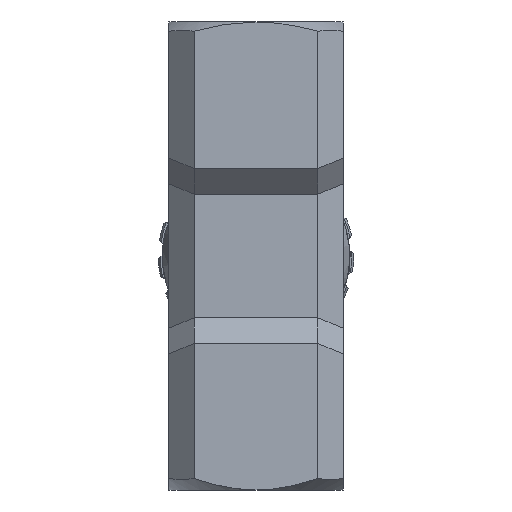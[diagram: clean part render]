
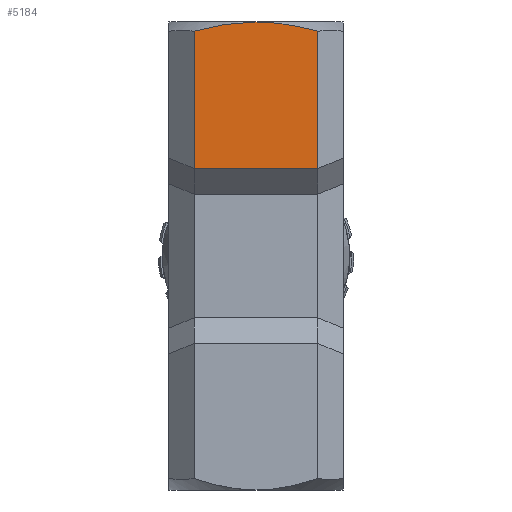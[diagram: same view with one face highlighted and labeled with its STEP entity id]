
A CAD part, front view. The second image highlights one B-rep face of the part: STEP entity #5184.
In plain terms, the highlighted planar face has unit normal (0, -1, 0).
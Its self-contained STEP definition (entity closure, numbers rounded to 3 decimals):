
#305 = CARTESIAN_POINT ( 'NONE',  ( -7.032, -17., 44.86 ) ) ;
#470 = CARTESIAN_POINT ( 'NONE',  ( 0., -17., 45.5 ) ) ;
#1741 = AXIS2_PLACEMENT_3D ( 'NONE', #26571, #26136, #22471 ) ;
#1776 = CARTESIAN_POINT ( 'NONE',  ( 10.058, -17., 44.246 ) ) ;
#1786 = LINE ( 'NONE', #6080, #26907 ) ;
#2072 = EDGE_CURVE ( 'NONE', #27714, #10297, #1786, .T. ) ;
#2762 = CARTESIAN_POINT ( 'NONE',  ( -2.019, -17., 45.5 ) ) ;
#4619 = EDGE_CURVE ( 'NONE', #10297, #14758, #21066, .T. ) ;
#5184 = ADVANCED_FACE ( 'NONE', ( #8890 ), #31287, .F. ) ;
#5342 = EDGE_LOOP ( 'NONE', ( #15100, #15488, #12659, #31453, #21124 ) ) ;
#6080 = CARTESIAN_POINT ( 'NONE',  ( -12., -17., 45.5 ) ) ;
#6989 = B_SPLINE_CURVE_WITH_KNOTS ( 'NONE', 3,
 ( #24534, #27002, #29500, #14924, #305, #17344, #2762, #19744 ),
 .UNSPECIFIED., .F., .F.,
 ( 4, 2, 2, 4 ),
 ( 0.017, 0.02, 0.023, 0.029 ),
 .UNSPECIFIED. ) ;
#8890 = FACE_OUTER_BOUND ( 'NONE', #5342, .T. ) ;
#9407 = CARTESIAN_POINT ( 'NONE',  ( -12., -17., 17. ) ) ;
#9967 = VERTEX_POINT ( 'NONE', #13375 ) ;
#10297 = VERTEX_POINT ( 'NONE', #9407 ) ;
#12659 = ORIENTED_EDGE ( 'NONE', *, *, #4619, .T. ) ;
#13375 = CARTESIAN_POINT ( 'NONE',  ( 12., -17., 43.724 ) ) ;
#13972 = CARTESIAN_POINT ( 'NONE',  ( 4.048, -17., 45.292 ) ) ;
#14758 = VERTEX_POINT ( 'NONE', #16667 ) ;
#14924 = CARTESIAN_POINT ( 'NONE',  ( -8.032, -17., 44.669 ) ) ;
#15100 = ORIENTED_EDGE ( 'NONE', *, *, #21816, .F. ) ;
#15488 = ORIENTED_EDGE ( 'NONE', *, *, #2072, .T. ) ;
#15801 = DIRECTION ( 'NONE',  ( 0., 0., -1. ) ) ;
#15963 = VECTOR ( 'NONE', #21853, 1000. ) ;
#16332 = VERTEX_POINT ( 'NONE', #470 ) ;
#16362 = CARTESIAN_POINT ( 'NONE',  ( 8.089, -17., 44.693 ) ) ;
#16667 = CARTESIAN_POINT ( 'NONE',  ( 12., -17., 17. ) ) ;
#17344 = CARTESIAN_POINT ( 'NONE',  ( -4.029, -17., 45.328 ) ) ;
#18678 = CARTESIAN_POINT ( 'NONE',  ( 1.009, -17., 45.5 ) ) ;
#18796 = CARTESIAN_POINT ( 'NONE',  ( 12., -17., 43.724 ) ) ;
#19744 = CARTESIAN_POINT ( 'NONE',  ( 0., -17., 45.5 ) ) ;
#20736 = B_SPLINE_CURVE_WITH_KNOTS ( 'NONE', 3,
 ( #21125, #18678, #28524, #13972, #30999, #16362, #1776, #18796 ),
 .UNSPECIFIED., .F., .F.,
 ( 4, 2, 2, 4 ),
 ( 0.029, 0.033, 0.036, 0.042 ),
 .UNSPECIFIED. ) ;
#21066 = LINE ( 'NONE', #29799, #26801 ) ;
#21124 = ORIENTED_EDGE ( 'NONE', *, *, #30524, .F. ) ;
#21125 = CARTESIAN_POINT ( 'NONE',  ( 0., -17., 45.5 ) ) ;
#21816 = EDGE_CURVE ( 'NONE', #27714, #16332, #6989, .T. ) ;
#21853 = DIRECTION ( 'NONE',  ( 0., 0., 1. ) ) ;
#22404 = LINE ( 'NONE', #31615, #15963 ) ;
#22471 = DIRECTION ( 'NONE',  ( 0., 0., 1. ) ) ;
#23125 = EDGE_CURVE ( 'NONE', #14758, #9967, #22404, .T. ) ;
#24534 = CARTESIAN_POINT ( 'NONE',  ( -12., -17., 43.724 ) ) ;
#24823 = DIRECTION ( 'NONE',  ( 1., 0., 0. ) ) ;
#26136 = DIRECTION ( 'NONE',  ( 0., 1., 0. ) ) ;
#26571 = CARTESIAN_POINT ( 'NONE',  ( -17., -17., 45.5 ) ) ;
#26801 = VECTOR ( 'NONE', #24823, 1000. ) ;
#26907 = VECTOR ( 'NONE', #15801, 1000. ) ;
#27002 = CARTESIAN_POINT ( 'NONE',  ( -11.017, -17., 43.988 ) ) ;
#27714 = VERTEX_POINT ( 'NONE', #31477 ) ;
#28524 = CARTESIAN_POINT ( 'NONE',  ( 2.021, -17., 45.458 ) ) ;
#29500 = CARTESIAN_POINT ( 'NONE',  ( -10.028, -17., 44.233 ) ) ;
#29799 = CARTESIAN_POINT ( 'NONE',  ( -17., -17., 17. ) ) ;
#30524 = EDGE_CURVE ( 'NONE', #16332, #9967, #20736, .T. ) ;
#30999 = CARTESIAN_POINT ( 'NONE',  ( 5.068, -17., 45.167 ) ) ;
#31287 = PLANE ( 'NONE',  #1741 ) ;
#31453 = ORIENTED_EDGE ( 'NONE', *, *, #23125, .T. ) ;
#31477 = CARTESIAN_POINT ( 'NONE',  ( -12., -17., 43.724 ) ) ;
#31615 = CARTESIAN_POINT ( 'NONE',  ( 12., -17., 45.5 ) ) ;
